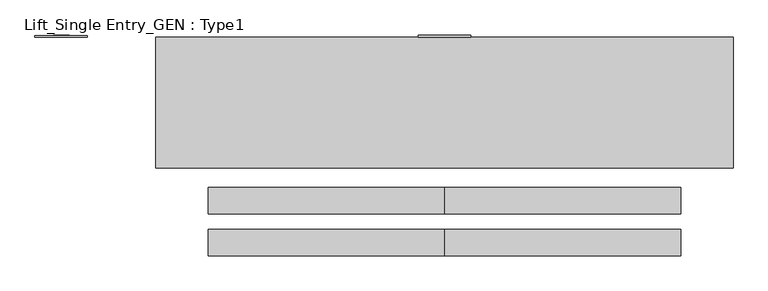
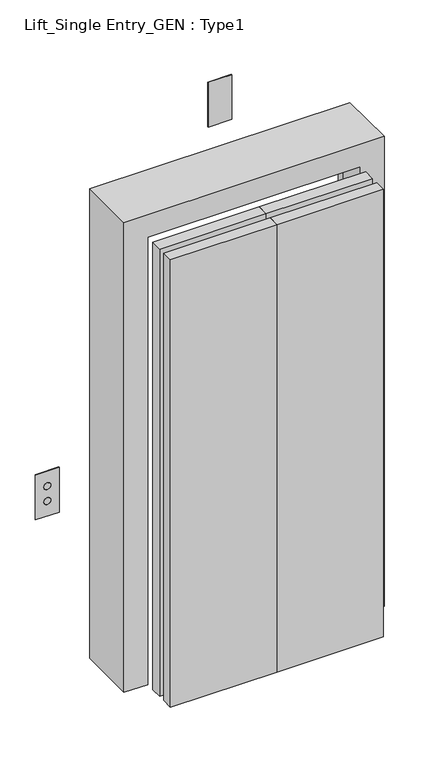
"""IFC4 building model written with IfcOpenShell, lengths in millimetres: proxy geometry, Lift_Single Entry_GEN : Type1."""

from ifc_helpers import new_model, si_unit, point, frame, frame_2d, origin, origin_with_axes, place, context, project, spatial, polyline, circle_curve, trimmed, segment, composite_curve, outline, extrude, faceted_brep, source, transform, mapped, element, save


def lift_single_entry_gen_type1_208d8e88(model_context):
    return source(origin(), model_context, "Body", "SolidModel", [
        extrude(outline(polyline([(253.9142846, 125.0), (153.9142846, 125.0), (153.9142846, 128.0), (253.9142846, 128.0), (253.9142846, 125.0)])), frame((0.0, 0.0, 2200.0), z_axis=(0.0, 0.0, 1.0), x_axis=(1.0, 0.0, 0.0)), (0.0, 0.0, 1.0), 200.0),
        extrude(outline(composite_curve([segment(trimmed(circle_curve(frame_2d((833.3333333, -526.0857154)), 15.0), [point((833.3333333, -541.0857154))], [point((833.3333333, -511.0857154))], False, "CARTESIAN"), True, "CONTINUOUS"), segment(trimmed(circle_curve(frame_2d((833.3333333, -526.0857154)), 15.0), [point((833.3333333, -511.0857154))], [point((833.3333333, -541.0857154))], False, "CARTESIAN"), True, "CONTINUOUS")], self_intersect=False)), frame((0.0, 125.0, 0.0), z_axis=(0.0, 1.0, 0.0), x_axis=(0.0, 0.0, 1.0)), (0.0, 0.0, 1.0), 4.0),
        extrude(outline(composite_curve([segment(trimmed(circle_curve(frame_2d((766.6666667, -526.0857154)), 15.0), [point((766.6666667, -541.0857154))], [point((766.6666667, -511.0857154))], False, "CARTESIAN"), True, "CONTINUOUS"), segment(trimmed(circle_curve(frame_2d((766.6666667, -526.0857154)), 15.0), [point((766.6666667, -511.0857154))], [point((766.6666667, -541.0857154))], False, "CARTESIAN"), True, "CONTINUOUS")], self_intersect=False)), frame((0.0, 125.0, 0.0), z_axis=(0.0, 1.0, 0.0), x_axis=(0.0, 0.0, 1.0)), (0.0, 0.0, 1.0), 4.0),
        extrude(outline(polyline([(900.0, -576.0857154), (700.0, -576.0857154), (700.0, -476.0857154), (900.0, -476.0857154), (900.0, -576.0857154)]), holes=[composite_curve([segment(trimmed(circle_curve(frame_2d((833.3333333, -526.0857154)), 15.0), [point((833.3333333, -541.0857154))], [point((833.3333333, -511.0857154))], True, "CARTESIAN"), True, "CONTINUOUS"), segment(trimmed(circle_curve(frame_2d((833.3333333, -526.0857154)), 15.0), [point((833.3333333, -511.0857154))], [point((833.3333333, -541.0857154))], True, "CARTESIAN"), True, "CONTINUOUS")], self_intersect=False), composite_curve([segment(trimmed(circle_curve(frame_2d((766.6666667, -526.0857154)), 15.0), [point((766.6666667, -541.0857154))], [point((766.6666667, -511.0857154))], True, "CARTESIAN"), True, "CONTINUOUS"), segment(trimmed(circle_curve(frame_2d((766.6666667, -526.0857154)), 15.0), [point((766.6666667, -511.0857154))], [point((766.6666667, -541.0857154))], True, "CARTESIAN"), True, "CONTINUOUS")], self_intersect=False)]), frame((0.0, 125.0, 0.0), z_axis=(0.0, 1.0, 0.0), x_axis=(0.0, 0.0, 1.0)), (0.0, 0.0, 1.0), 3.0),
        extrude(outline(polyline([(-246.0857154, -242.5), (203.9142846, -242.5), (203.9142846, -292.5), (-246.0857154, -292.5), (-246.0857154, -242.5)])), origin_with_axes(), (0.0, 0.0, 1.0), 2000.0),
        extrude(outline(polyline([(653.9142846, -242.5), (653.9142846, -292.5), (203.9142846, -292.5), (203.9142846, -242.5), (653.9142846, -242.5)])), origin_with_axes(), (0.0, 0.0, 1.0), 2000.0),
        extrude(outline(polyline([(-246.0857154, -162.5), (203.9142846, -162.5), (203.9142846, -212.5), (-246.0857154, -212.5), (-246.0857154, -162.5)])), origin_with_axes(), (0.0, 0.0, 1.0), 2000.0),
        extrude(outline(polyline([(653.9142846, -162.5), (653.9142846, -212.5), (203.9142846, -212.5), (203.9142846, -162.5), (653.9142846, -162.5)])), origin_with_axes(), (0.0, 0.0, 1.0), 2000.0),
        faceted_brep([(-346.0857154, -125.0, 0.0), (-346.0857154, 125.0, 0.0), (-296.0857154, 125.0, 0.0), (-296.0857154, 0.0, 0.0), (-246.0857154, 0.0, 0.0), (-246.0857154, -125.0, 0.0), (-346.0857154, -125.0, 2100.0), (-346.0857154, 125.0, 2100.0), (753.9142846, 125.0, 2100.0), (753.9142846, 125.0, 0.0), (703.9142846, 125.0, 0.0), (703.9142846, 125.0, 2050.0), (-296.0857154, 125.0, 2050.0), (-296.0857154, 0.0, 2050.0), (703.9142846, 0.0, 2050.0), (703.9142846, 0.0, 0.0), (653.9142846, 0.0, 0.0), (653.9142846, 0.0, 2000.0), (-246.0857154, 0.0, 2000.0), (-246.0857154, -125.0, 2000.0), (653.9142846, -125.0, 2000.0), (653.9142846, -125.0, 0.0), (753.9142846, -125.0, 0.0), (753.9142846, -125.0, 2100.0)], [[[0, 1, 2, 3, 4, 5]], [[1, 0, 6, 7]], [[2, 1, 7, 8, 9, 10, 11, 12]], [[3, 2, 12, 13]], [[4, 3, 13, 14, 15, 16, 17, 18]], [[5, 4, 18, 19]], [[0, 5, 19, 20, 21, 22, 23, 6]], [[7, 6, 23, 8]], [[13, 12, 11, 14]], [[19, 18, 17, 20]], [[22, 21, 16, 15, 10, 9]], [[8, 23, 22, 9]], [[14, 11, 10, 15]], [[20, 17, 16, 21]]]),
    ])


if __name__ == "__main__":
    model = new_model("IFC4")
    model_context = context("Model", 3, world=origin())
    ifc_project = project(units=[si_unit("LENGTHUNIT", "METRE", prefix="MILLI")], contexts=[model_context])
    site = spatial("IfcSite", under=ifc_project)
    building = spatial("IfcBuilding", under=site)
    placement = place(None, origin())
    lift_single_entry_gen_type1_shape = lift_single_entry_gen_type1_208d8e88(model_context)
    element("IfcBuildingElementProxy", 1, Name="Lift_Single Entry_GEN : Type1", ObjectType="Lift_Single Entry_GEN : Type1", at=placement, inside=building, context=model_context, shape_type="MappedRepresentation", body=[
        mapped(lift_single_entry_gen_type1_shape, transform((0.0, 0.0, 0.0), x_axis=(1.0, 0.0, 0.0), y_axis=(0.0, 1.0, 0.0), z_axis=(0.0, 0.0, 1.0))),
    ])
    save(model, "model.ifc")
